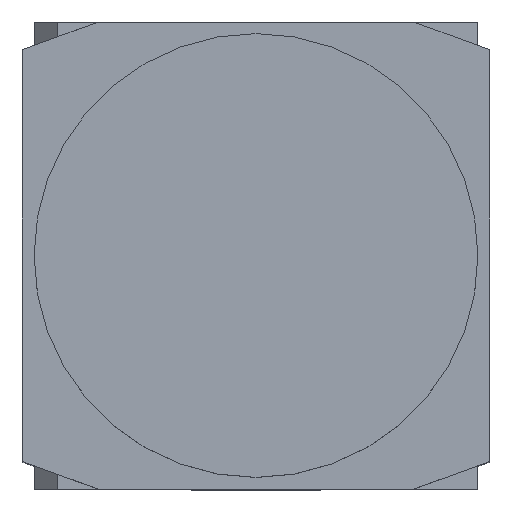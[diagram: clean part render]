
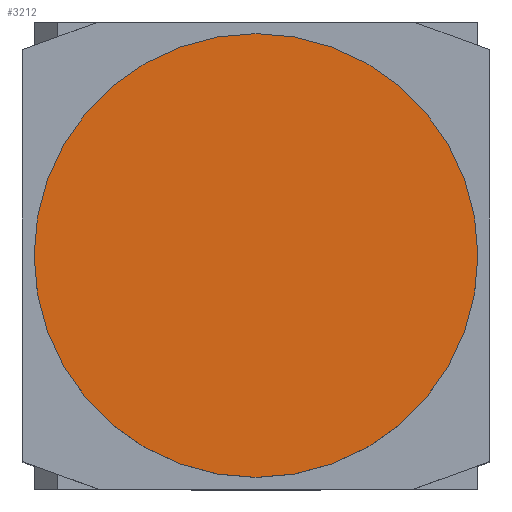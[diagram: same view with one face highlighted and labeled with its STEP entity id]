
A CAD part, top view. The second image highlights one B-rep face of the part: STEP entity #3212.
In plain terms, the highlighted planar face has unit normal (0, 0, 1).
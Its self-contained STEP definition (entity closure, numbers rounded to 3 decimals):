
#1219=CARTESIAN_POINT('',(-19.0,0.,38.0));
#1220=VERTEX_POINT('',#1219);
#1236=CARTESIAN_POINT('',(19.0,0.,38.0));
#1237=VERTEX_POINT('',#1236);
#1244=CARTESIAN_POINT('',(0.0,0.0,38.0));
#1245=DIRECTION('',(0.0,0.0,-1.0));
#1246=DIRECTION('',(-1.0,0.0,0.0));
#1247=AXIS2_PLACEMENT_3D('',#1244,#1245,#1246);
#1248=CIRCLE('',#1247,19.0);
#1249=EDGE_CURVE('',#1237,#1220,#1248,.T.);
#3197=CARTESIAN_POINT('',(0.0,0.0,38.0));
#3198=DIRECTION('',(0.0,0.0,-1.0));
#3199=DIRECTION('',(-1.0,0.0,0.0));
#3200=AXIS2_PLACEMENT_3D('',#3197,#3198,#3199);
#3201=PLANE('',#3200);
#3202=ORIENTED_EDGE('',*,*,#1249,.F.);
#3203=CARTESIAN_POINT('',(0.0,0.0,38.0));
#3204=DIRECTION('',(0.0,0.0,-1.0));
#3205=DIRECTION('',(-1.0,0.0,0.0));
#3206=AXIS2_PLACEMENT_3D('',#3203,#3204,#3205);
#3207=CIRCLE('',#3206,19.0);
#3208=EDGE_CURVE('',#1220,#1237,#3207,.T.);
#3209=ORIENTED_EDGE('',*,*,#3208,.F.);
#3210=EDGE_LOOP('',(#3202,#3209));
#3211=FACE_OUTER_BOUND('',#3210,.T.);
#3212=ADVANCED_FACE('',(#3211),#3201,.F.);
